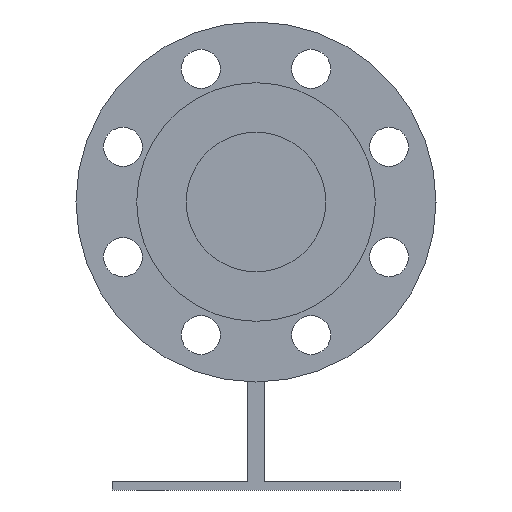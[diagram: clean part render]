
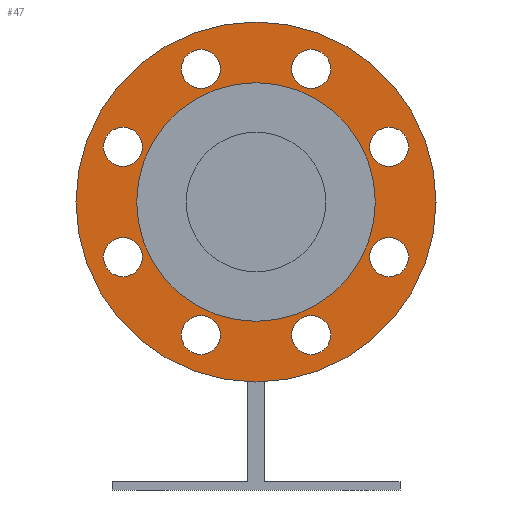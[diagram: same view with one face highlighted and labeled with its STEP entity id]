
A CAD part, left-side view. The second image highlights one B-rep face of the part: STEP entity #47.
In plain terms, the highlighted planar face has unit normal (-1, 0, 0).
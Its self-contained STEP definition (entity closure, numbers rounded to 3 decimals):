
#47=ADVANCED_FACE('',(#215,#216,#217,#218,#219,#220,#221,#222,#223,#224),#214,.T.);
#214=PLANE('',#1163);
#215=FACE_OUTER_BOUND('',#1164,.T.);
#216=FACE_BOUND('',#1165,.T.);
#217=FACE_BOUND('',#1166,.T.);
#218=FACE_BOUND('',#1167,.T.);
#219=FACE_BOUND('',#1168,.T.);
#220=FACE_BOUND('',#1169,.T.);
#221=FACE_BOUND('',#1170,.T.);
#222=FACE_BOUND('',#1171,.T.);
#223=FACE_BOUND('',#1172,.T.);
#224=FACE_BOUND('',#1173,.T.);
#1160=CARTESIAN_POINT('',(-387.,-161.554,-185.));
#1161=DIRECTION('',(-1.,0.,0.));
#1162=DIRECTION('',(0.,0.,1.));
#1163=AXIS2_PLACEMENT_3D('',#1160,#1161,#1162);
#1164=EDGE_LOOP('',(#1675,#1676));
#1165=EDGE_LOOP('',(#1677,#1678));
#1166=EDGE_LOOP('',(#1679,#1680));
#1167=EDGE_LOOP('',(#1681,#1682));
#1168=EDGE_LOOP('',(#1683,#1684));
#1169=EDGE_LOOP('',(#1685,#1686));
#1170=EDGE_LOOP('',(#1687,#1688));
#1171=EDGE_LOOP('',(#1689,#1690));
#1172=EDGE_LOOP('',(#1691,#1692));
#1173=EDGE_LOOP('',(#1693,#1694));
#1675=ORIENTED_EDGE('',*,*,#2159,.T.);
#1676=ORIENTED_EDGE('',*,*,#2160,.T.);
#1677=ORIENTED_EDGE('',*,*,#2161,.T.);
#1678=ORIENTED_EDGE('',*,*,#2162,.T.);
#1679=ORIENTED_EDGE('',*,*,#2163,.T.);
#1680=ORIENTED_EDGE('',*,*,#2164,.T.);
#1681=ORIENTED_EDGE('',*,*,#2165,.T.);
#1682=ORIENTED_EDGE('',*,*,#2166,.T.);
#1683=ORIENTED_EDGE('',*,*,#2167,.T.);
#1684=ORIENTED_EDGE('',*,*,#2168,.T.);
#1685=ORIENTED_EDGE('',*,*,#2169,.T.);
#1686=ORIENTED_EDGE('',*,*,#2170,.T.);
#1687=ORIENTED_EDGE('',*,*,#2171,.T.);
#1688=ORIENTED_EDGE('',*,*,#2172,.T.);
#1689=ORIENTED_EDGE('',*,*,#2173,.T.);
#1690=ORIENTED_EDGE('',*,*,#2174,.T.);
#1691=ORIENTED_EDGE('',*,*,#2175,.T.);
#1692=ORIENTED_EDGE('',*,*,#2176,.T.);
#1693=ORIENTED_EDGE('',*,*,#2177,.F.);
#1694=ORIENTED_EDGE('',*,*,#2178,.F.);
#2159=EDGE_CURVE('',#2671,#2672,#2673,.T.);
#2160=EDGE_CURVE('',#2672,#2671,#2679,.T.);
#2161=EDGE_CURVE('',#2685,#2686,#2687,.T.);
#2162=EDGE_CURVE('',#2686,#2685,#2693,.T.);
#2163=EDGE_CURVE('',#2699,#2700,#2701,.T.);
#2164=EDGE_CURVE('',#2700,#2699,#2707,.T.);
#2165=EDGE_CURVE('',#2713,#2714,#2715,.T.);
#2166=EDGE_CURVE('',#2714,#2713,#2721,.T.);
#2167=EDGE_CURVE('',#2727,#2728,#2729,.T.);
#2168=EDGE_CURVE('',#2728,#2727,#2735,.T.);
#2169=EDGE_CURVE('',#2741,#2742,#2743,.T.);
#2170=EDGE_CURVE('',#2742,#2741,#2749,.T.);
#2171=EDGE_CURVE('',#2755,#2756,#2757,.T.);
#2172=EDGE_CURVE('',#2756,#2755,#2763,.T.);
#2173=EDGE_CURVE('',#2769,#2770,#2771,.T.);
#2174=EDGE_CURVE('',#2770,#2769,#2777,.T.);
#2175=EDGE_CURVE('',#2783,#2784,#2785,.T.);
#2176=EDGE_CURVE('',#2784,#2783,#2791,.T.);
#2177=EDGE_CURVE('',#2797,#2798,#2799,.T.);
#2178=EDGE_CURVE('',#2798,#2797,#2805,.T.);
#2671=VERTEX_POINT('',#4182);
#2672=VERTEX_POINT('',#4183);
#2673=CIRCLE('',#4187,87.5);
#2679=CIRCLE('',#4191,87.5);
#2685=VERTEX_POINT('',#4192);
#2686=VERTEX_POINT('',#4193);
#2687=CIRCLE('',#4197,9.5);
#2693=CIRCLE('',#4201,9.5);
#2699=VERTEX_POINT('',#4202);
#2700=VERTEX_POINT('',#4203);
#2701=CIRCLE('',#4207,9.5);
#2707=CIRCLE('',#4211,9.5);
#2713=VERTEX_POINT('',#4212);
#2714=VERTEX_POINT('',#4213);
#2715=CIRCLE('',#4217,9.5);
#2721=CIRCLE('',#4221,9.5);
#2727=VERTEX_POINT('',#4222);
#2728=VERTEX_POINT('',#4223);
#2729=CIRCLE('',#4227,9.5);
#2735=CIRCLE('',#4231,9.5);
#2741=VERTEX_POINT('',#4232);
#2742=VERTEX_POINT('',#4233);
#2743=CIRCLE('',#4237,9.5);
#2749=CIRCLE('',#4241,9.5);
#2755=VERTEX_POINT('',#4242);
#2756=VERTEX_POINT('',#4243);
#2757=CIRCLE('',#4247,9.5);
#2763=CIRCLE('',#4251,9.5);
#2769=VERTEX_POINT('',#4252);
#2770=VERTEX_POINT('',#4253);
#2771=CIRCLE('',#4257,9.5);
#2777=CIRCLE('',#4261,9.5);
#2783=VERTEX_POINT('',#4262);
#2784=VERTEX_POINT('',#4263);
#2785=CIRCLE('',#4267,9.5);
#2791=CIRCLE('',#4271,9.5);
#2797=VERTEX_POINT('',#4272);
#2798=VERTEX_POINT('',#4273);
#2799=CIRCLE('',#4277,58.);
#2805=CIRCLE('',#4281,58.);
#4182=CARTESIAN_POINT('',(-387.,0.,87.5));
#4183=CARTESIAN_POINT('',(-387.,0.,-87.5));
#4184=CARTESIAN_POINT('',(-387.,0.,0.));
#4185=DIRECTION('',(-1.,0.,0.));
#4186=DIRECTION('',(0.,0.,1.));
#4187=AXIS2_PLACEMENT_3D('',#4184,#4185,#4186);
#4188=CARTESIAN_POINT('',(-387.,0.,0.));
#4189=DIRECTION('',(-1.,0.,0.));
#4190=DIRECTION('',(0.,0.,1.));
#4191=AXIS2_PLACEMENT_3D('',#4188,#4189,#4190);
#4192=CARTESIAN_POINT('',(-387.,-64.672,36.288));
#4193=CARTESIAN_POINT('',(-387.,-64.672,17.288));
#4194=CARTESIAN_POINT('',(-387.,-64.672,26.788));
#4195=DIRECTION('',(1.,0.,0.));
#4196=DIRECTION('',(0.,0.,1.));
#4197=AXIS2_PLACEMENT_3D('',#4194,#4195,#4196);
#4198=CARTESIAN_POINT('',(-387.,-64.672,26.788));
#4199=DIRECTION('',(1.,0.,0.));
#4200=DIRECTION('',(0.,0.,1.));
#4201=AXIS2_PLACEMENT_3D('',#4198,#4199,#4200);
#4202=CARTESIAN_POINT('',(-387.,-26.788,74.172));
#4203=CARTESIAN_POINT('',(-387.,-26.788,55.172));
#4204=CARTESIAN_POINT('',(-387.,-26.788,64.672));
#4205=DIRECTION('',(1.,0.,0.));
#4206=DIRECTION('',(0.,0.,1.));
#4207=AXIS2_PLACEMENT_3D('',#4204,#4205,#4206);
#4208=CARTESIAN_POINT('',(-387.,-26.788,64.672));
#4209=DIRECTION('',(1.,0.,0.));
#4210=DIRECTION('',(0.,0.,1.));
#4211=AXIS2_PLACEMENT_3D('',#4208,#4209,#4210);
#4212=CARTESIAN_POINT('',(-387.,26.788,74.172));
#4213=CARTESIAN_POINT('',(-387.,26.788,55.172));
#4214=CARTESIAN_POINT('',(-387.,26.788,64.672));
#4215=DIRECTION('',(1.,0.,0.));
#4216=DIRECTION('',(0.,0.,1.));
#4217=AXIS2_PLACEMENT_3D('',#4214,#4215,#4216);
#4218=CARTESIAN_POINT('',(-387.,26.788,64.672));
#4219=DIRECTION('',(1.,0.,0.));
#4220=DIRECTION('',(0.,0.,1.));
#4221=AXIS2_PLACEMENT_3D('',#4218,#4219,#4220);
#4222=CARTESIAN_POINT('',(-387.,64.672,36.288));
#4223=CARTESIAN_POINT('',(-387.,64.672,17.288));
#4224=CARTESIAN_POINT('',(-387.,64.672,26.788));
#4225=DIRECTION('',(1.,0.,0.));
#4226=DIRECTION('',(0.,0.,1.));
#4227=AXIS2_PLACEMENT_3D('',#4224,#4225,#4226);
#4228=CARTESIAN_POINT('',(-387.,64.672,26.788));
#4229=DIRECTION('',(1.,0.,0.));
#4230=DIRECTION('',(0.,0.,1.));
#4231=AXIS2_PLACEMENT_3D('',#4228,#4229,#4230);
#4232=CARTESIAN_POINT('',(-387.,64.672,-17.288));
#4233=CARTESIAN_POINT('',(-387.,64.672,-36.288));
#4234=CARTESIAN_POINT('',(-387.,64.672,-26.788));
#4235=DIRECTION('',(1.,0.,0.));
#4236=DIRECTION('',(0.,0.,1.));
#4237=AXIS2_PLACEMENT_3D('',#4234,#4235,#4236);
#4238=CARTESIAN_POINT('',(-387.,64.672,-26.788));
#4239=DIRECTION('',(1.,0.,0.));
#4240=DIRECTION('',(0.,0.,1.));
#4241=AXIS2_PLACEMENT_3D('',#4238,#4239,#4240);
#4242=CARTESIAN_POINT('',(-387.,26.788,-55.172));
#4243=CARTESIAN_POINT('',(-387.,26.788,-74.172));
#4244=CARTESIAN_POINT('',(-387.,26.788,-64.672));
#4245=DIRECTION('',(1.,0.,0.));
#4246=DIRECTION('',(0.,0.,1.));
#4247=AXIS2_PLACEMENT_3D('',#4244,#4245,#4246);
#4248=CARTESIAN_POINT('',(-387.,26.788,-64.672));
#4249=DIRECTION('',(1.,0.,0.));
#4250=DIRECTION('',(0.,0.,1.));
#4251=AXIS2_PLACEMENT_3D('',#4248,#4249,#4250);
#4252=CARTESIAN_POINT('',(-387.,-26.788,-55.172));
#4253=CARTESIAN_POINT('',(-387.,-26.788,-74.172));
#4254=CARTESIAN_POINT('',(-387.,-26.788,-64.672));
#4255=DIRECTION('',(1.,0.,0.));
#4256=DIRECTION('',(0.,0.,1.));
#4257=AXIS2_PLACEMENT_3D('',#4254,#4255,#4256);
#4258=CARTESIAN_POINT('',(-387.,-26.788,-64.672));
#4259=DIRECTION('',(1.,0.,0.));
#4260=DIRECTION('',(0.,0.,1.));
#4261=AXIS2_PLACEMENT_3D('',#4258,#4259,#4260);
#4262=CARTESIAN_POINT('',(-387.,-64.672,-17.288));
#4263=CARTESIAN_POINT('',(-387.,-64.672,-36.288));
#4264=CARTESIAN_POINT('',(-387.,-64.672,-26.788));
#4265=DIRECTION('',(1.,0.,0.));
#4266=DIRECTION('',(0.,0.,1.));
#4267=AXIS2_PLACEMENT_3D('',#4264,#4265,#4266);
#4268=CARTESIAN_POINT('',(-387.,-64.672,-26.788));
#4269=DIRECTION('',(1.,0.,0.));
#4270=DIRECTION('',(0.,0.,1.));
#4271=AXIS2_PLACEMENT_3D('',#4268,#4269,#4270);
#4272=CARTESIAN_POINT('',(-387.,0.,-58.));
#4273=CARTESIAN_POINT('',(-387.,0.,58.));
#4274=CARTESIAN_POINT('',(-387.,0.,0.));
#4275=DIRECTION('',(-1.,0.,0.));
#4276=DIRECTION('',(0.,0.,1.));
#4277=AXIS2_PLACEMENT_3D('',#4274,#4275,#4276);
#4278=CARTESIAN_POINT('',(-387.,0.,0.));
#4279=DIRECTION('',(-1.,0.,0.));
#4280=DIRECTION('',(0.,0.,1.));
#4281=AXIS2_PLACEMENT_3D('',#4278,#4279,#4280);
